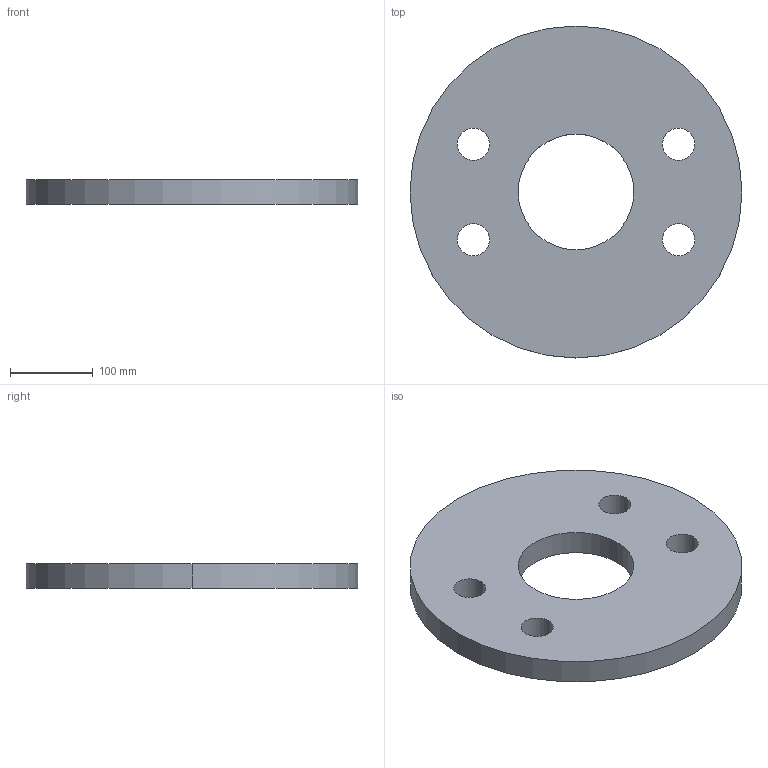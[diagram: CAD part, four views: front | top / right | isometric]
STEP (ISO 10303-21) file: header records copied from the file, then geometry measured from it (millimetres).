
FILE_DESCRIPTION (( 'STEP AP203' ), '1' );
FILE_NAME ('Kreissscheibe M36.STEP', '2018-02-22T05:52:29', ( 'install' ), ( 'Hewlett-Packard Company' ), 'SwSTEP 2.0', 'SolidWorks 2017', '' );
FILE_SCHEMA (( 'CONFIG_CONTROL_DESIGN' ));
Length unit declared in the file: millimetre
Products named in the file (1): Kreissscheibe M36
Bounding box: 402 x 402 x 30 mm (x, y, z)
Volume: 3202539.6 mm3; surface area: 279287.6 mm2
Topology: 1 solids, 1 shells, 14 faces, 36 edges, 24 vertices
Faces by surface type: cylinder 12, plane 2
Entity records: 541 total; most frequent: DIRECTION 90, CARTESIAN_POINT 75, ORIENTED_EDGE 72, AXIS2_PLACEMENT_3D 39, EDGE_CURVE 36, VERTEX_POINT 24, EDGE_LOOP 24, CIRCLE 24
